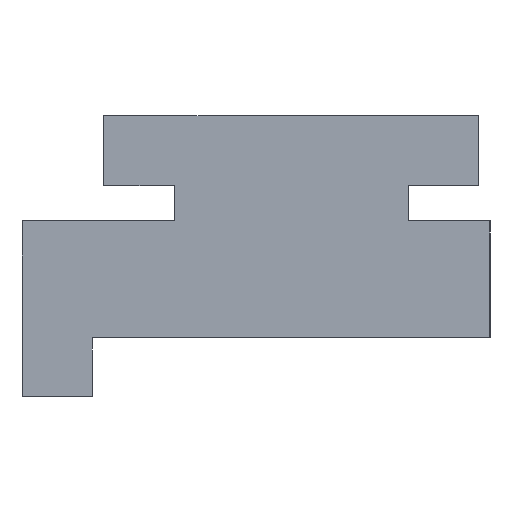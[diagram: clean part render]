
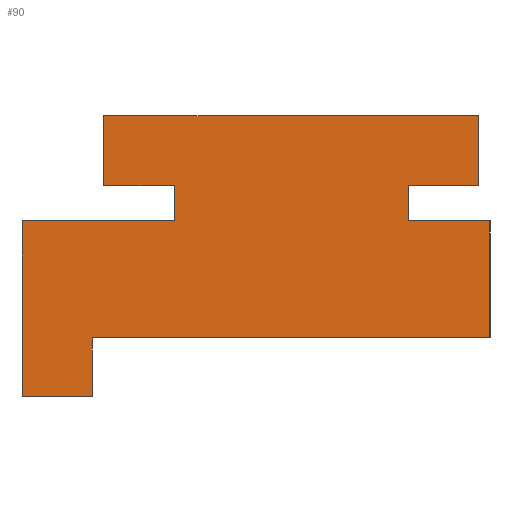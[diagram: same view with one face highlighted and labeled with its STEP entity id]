
A CAD part, left-side view. The second image highlights one B-rep face of the part: STEP entity #90.
In plain terms, the highlighted planar face has unit normal (-1, 0, 0).
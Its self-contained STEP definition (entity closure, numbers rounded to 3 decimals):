
#1 = CARTESIAN_POINT ( 'NONE',  ( 0., 5., 5. ) ) ;
#3 = CARTESIAN_POINT ( 'NONE',  ( 0., 8., 6.5 ) ) ;
#12 = VECTOR ( 'NONE', #68, 1000. ) ;
#13 = VERTEX_POINT ( 'NONE', #347 ) ;
#15 = LINE ( 'NONE', #177, #444 ) ;
#20 = ORIENTED_EDGE ( 'NONE', *, *, #61, .F. ) ;
#25 = ORIENTED_EDGE ( 'NONE', *, *, #110, .F. ) ;
#30 = ORIENTED_EDGE ( 'NONE', *, *, #62, .F. ) ;
#41 = VERTEX_POINT ( 'NONE', #515 ) ;
#44 = DIRECTION ( 'NONE',  ( 0., 0., -1. ) ) ;
#57 = DIRECTION ( 'NONE',  ( 0., 0., -1. ) ) ;
#59 = DIRECTION ( 'NONE',  ( 0., 0., -1. ) ) ;
#60 = VECTOR ( 'NONE', #288, 1000. ) ;
#61 = EDGE_CURVE ( 'NONE', #41, #196, #308, .T. ) ;
#62 = EDGE_CURVE ( 'NONE', #117, #297, #190, .T. ) ;
#65 = VECTOR ( 'NONE', #208, 1000. ) ;
#68 = DIRECTION ( 'NONE',  ( 0., 1., 0. ) ) ;
#90 = ADVANCED_FACE ( 'NONE', ( #358 ), #104, .F. ) ;
#96 = EDGE_CURVE ( 'NONE', #13, #117, #334, .T. ) ;
#101 = LINE ( 'NONE', #365, #530 ) ;
#102 = CARTESIAN_POINT ( 'NONE',  ( 0., 8.5, -2.5 ) ) ;
#104 = PLANE ( 'NONE',  #330 ) ;
#105 = EDGE_CURVE ( 'NONE', #445, #13, #480, .T. ) ;
#110 = EDGE_CURVE ( 'NONE', #273, #161, #490, .T. ) ;
#115 = DIRECTION ( 'NONE',  ( 0., -1., 0. ) ) ;
#117 = VERTEX_POINT ( 'NONE', #152 ) ;
#119 = DIRECTION ( 'NONE',  ( 0., 1., 0. ) ) ;
#124 = VECTOR ( 'NONE', #59, 1000. ) ;
#126 = CARTESIAN_POINT ( 'NONE',  ( 0., 8., 9.5 ) ) ;
#127 = CARTESIAN_POINT ( 'NONE',  ( 0., -8., 9.5 ) ) ;
#132 = LINE ( 'NONE', #296, #450 ) ;
#135 = EDGE_CURVE ( 'NONE', #161, #479, #15, .T. ) ;
#141 = VERTEX_POINT ( 'NONE', #182 ) ;
#147 = CARTESIAN_POINT ( 'NONE',  ( 0., 11.5, -2.5 ) ) ;
#149 = LINE ( 'NONE', #454, #60 ) ;
#151 = DIRECTION ( 'NONE',  ( 0., 1., 0. ) ) ;
#152 = CARTESIAN_POINT ( 'NONE',  ( 0., 11.5, -2.5 ) ) ;
#155 = ORIENTED_EDGE ( 'NONE', *, *, #271, .F. ) ;
#161 = VERTEX_POINT ( 'NONE', #127 ) ;
#177 = CARTESIAN_POINT ( 'NONE',  ( 0., -8., 9.5 ) ) ;
#179 = VECTOR ( 'NONE', #57, 1000. ) ;
#182 = CARTESIAN_POINT ( 'NONE',  ( 0., -8.5, 0. ) ) ;
#190 = LINE ( 'NONE', #147, #198 ) ;
#192 = LINE ( 'NONE', #531, #269 ) ;
#195 = DIRECTION ( 'NONE',  ( 0., 0., -1. ) ) ;
#196 = VERTEX_POINT ( 'NONE', #377 ) ;
#198 = VECTOR ( 'NONE', #224, 1000. ) ;
#199 = DIRECTION ( 'NONE',  ( 0., 1., 0. ) ) ;
#200 = ORIENTED_EDGE ( 'NONE', *, *, #277, .F. ) ;
#201 = CARTESIAN_POINT ( 'NONE',  ( 0., 11.5, 5. ) ) ;
#208 = DIRECTION ( 'NONE',  ( 0., 0., 1. ) ) ;
#217 = ORIENTED_EDGE ( 'NONE', *, *, #105, .F. ) ;
#219 = LINE ( 'NONE', #407, #257 ) ;
#222 = ORIENTED_EDGE ( 'NONE', *, *, #135, .F. ) ;
#224 = DIRECTION ( 'NONE',  ( 0., 0., 1. ) ) ;
#225 = ORIENTED_EDGE ( 'NONE', *, *, #414, .F. ) ;
#246 = CARTESIAN_POINT ( 'NONE',  ( 0., -8., 6.5 ) ) ;
#247 = CARTESIAN_POINT ( 'NONE',  ( 0., 8., 6.5 ) ) ;
#252 = DIRECTION ( 'NONE',  ( 0., 0., 1. ) ) ;
#254 = ORIENTED_EDGE ( 'NONE', *, *, #451, .F. ) ;
#255 = LINE ( 'NONE', #201, #518 ) ;
#257 = VECTOR ( 'NONE', #119, 1000. ) ;
#268 = ORIENTED_EDGE ( 'NONE', *, *, #388, .F. ) ;
#269 = VECTOR ( 'NONE', #199, 1000. ) ;
#271 = EDGE_CURVE ( 'NONE', #406, #273, #318, .T. ) ;
#273 = VERTEX_POINT ( 'NONE', #126 ) ;
#274 = CARTESIAN_POINT ( 'NONE',  ( 0., 8.5, 0. ) ) ;
#277 = EDGE_CURVE ( 'NONE', #196, #363, #149, .T. ) ;
#288 = DIRECTION ( 'NONE',  ( 0., -1., 0. ) ) ;
#296 = CARTESIAN_POINT ( 'NONE',  ( 0., 5., 5. ) ) ;
#297 = VERTEX_POINT ( 'NONE', #532 ) ;
#308 = LINE ( 'NONE', #517, #179 ) ;
#315 = CARTESIAN_POINT ( 'NONE',  ( 0., 8., 9.5 ) ) ;
#318 = LINE ( 'NONE', #3, #65 ) ;
#327 = VERTEX_POINT ( 'NONE', #1 ) ;
#328 = CARTESIAN_POINT ( 'NONE',  ( 0., 8.5, 0. ) ) ;
#330 = AXIS2_PLACEMENT_3D ( 'NONE', #484, #443, #195 ) ;
#334 = LINE ( 'NONE', #102, #389 ) ;
#338 = ORIENTED_EDGE ( 'NONE', *, *, #348, .F. ) ;
#347 = CARTESIAN_POINT ( 'NONE',  ( 0., 8.5, -2.5 ) ) ;
#348 = EDGE_CURVE ( 'NONE', #327, #383, #132, .T. ) ;
#356 = CARTESIAN_POINT ( 'NONE',  ( 0., -8.5, 5. ) ) ;
#358 = FACE_OUTER_BOUND ( 'NONE', #373, .T. ) ;
#362 = CARTESIAN_POINT ( 'NONE',  ( 0., 5., 6.5 ) ) ;
#363 = VERTEX_POINT ( 'NONE', #356 ) ;
#365 = CARTESIAN_POINT ( 'NONE',  ( 0., -8.5, 5. ) ) ;
#373 = EDGE_LOOP ( 'NONE', ( #217, #225, #492, #200, #20, #438, #222, #25, #155, #268, #338, #254, #30, #503 ) ) ;
#377 = CARTESIAN_POINT ( 'NONE',  ( 0., -5., 5. ) ) ;
#383 = VERTEX_POINT ( 'NONE', #362 ) ;
#388 = EDGE_CURVE ( 'NONE', #383, #406, #429, .T. ) ;
#389 = VECTOR ( 'NONE', #151, 1000. ) ;
#394 = EDGE_CURVE ( 'NONE', #363, #141, #101, .T. ) ;
#401 = EDGE_CURVE ( 'NONE', #479, #41, #219, .T. ) ;
#406 = VERTEX_POINT ( 'NONE', #247 ) ;
#407 = CARTESIAN_POINT ( 'NONE',  ( 0., -8., 6.5 ) ) ;
#414 = EDGE_CURVE ( 'NONE', #141, #445, #192, .T. ) ;
#429 = LINE ( 'NONE', #491, #12 ) ;
#438 = ORIENTED_EDGE ( 'NONE', *, *, #401, .F. ) ;
#443 = DIRECTION ( 'NONE',  ( 1., 0., 0. ) ) ;
#444 = VECTOR ( 'NONE', #44, 1000. ) ;
#445 = VERTEX_POINT ( 'NONE', #328 ) ;
#450 = VECTOR ( 'NONE', #252, 1000. ) ;
#451 = EDGE_CURVE ( 'NONE', #297, #327, #255, .T. ) ;
#454 = CARTESIAN_POINT ( 'NONE',  ( 0., -5., 5. ) ) ;
#479 = VERTEX_POINT ( 'NONE', #246 ) ;
#480 = LINE ( 'NONE', #274, #124 ) ;
#484 = CARTESIAN_POINT ( 'NONE',  ( 0., 0., 0. ) ) ;
#487 = DIRECTION ( 'NONE',  ( 0., 0., -1. ) ) ;
#490 = LINE ( 'NONE', #315, #497 ) ;
#491 = CARTESIAN_POINT ( 'NONE',  ( 0., 5., 6.5 ) ) ;
#492 = ORIENTED_EDGE ( 'NONE', *, *, #394, .F. ) ;
#497 = VECTOR ( 'NONE', #519, 1000. ) ;
#503 = ORIENTED_EDGE ( 'NONE', *, *, #96, .F. ) ;
#515 = CARTESIAN_POINT ( 'NONE',  ( 0., -5., 6.5 ) ) ;
#517 = CARTESIAN_POINT ( 'NONE',  ( 0., -5., 6.5 ) ) ;
#518 = VECTOR ( 'NONE', #115, 1000. ) ;
#519 = DIRECTION ( 'NONE',  ( 0., -1., 0. ) ) ;
#530 = VECTOR ( 'NONE', #487, 1000. ) ;
#531 = CARTESIAN_POINT ( 'NONE',  ( 0., -8.5, 0. ) ) ;
#532 = CARTESIAN_POINT ( 'NONE',  ( 0., 11.5, 5. ) ) ;
